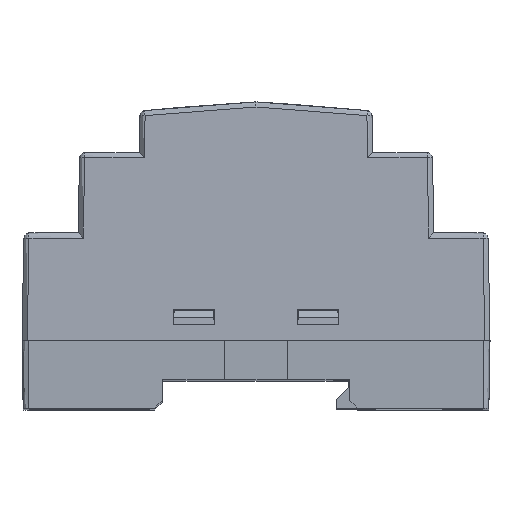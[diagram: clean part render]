
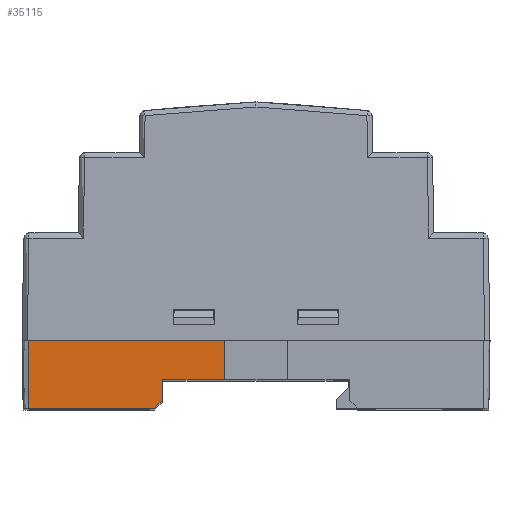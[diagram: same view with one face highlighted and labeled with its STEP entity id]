
A CAD part, top view. The second image highlights one B-rep face of the part: STEP entity #35115.
In plain terms, the highlighted planar face has unit normal (0, -0.018, 1).
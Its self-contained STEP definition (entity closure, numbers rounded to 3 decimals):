
#281 = EDGE_CURVE ( 'NONE', #34605, #40562, #3998, .T. ) ;
#2123 = DIRECTION ( 'NONE',  ( -0.009, -1., -0.017 ) ) ;
#2350 = FACE_OUTER_BOUND ( 'NONE', #42812, .T. ) ;
#3998 =( BOUNDED_CURVE ( )  B_SPLINE_CURVE ( 3, ( #6674, #45357, #6007, #20716 ),
 .UNSPECIFIED., .F., .T. ) 
 B_SPLINE_CURVE_WITH_KNOTS ( ( 4, 4 ),
 ( 0., 1.553 ),
 .UNSPECIFIED. ) 
 CURVE ( )  GEOMETRIC_REPRESENTATION_ITEM ( )  RATIONAL_B_SPLINE_CURVE ( ( 1., 0.809, 0.809, 1. ) ) 
 REPRESENTATION_ITEM ( '' )  );
#4540 = CARTESIAN_POINT ( 'NONE',  ( -19.52, -13.1, 105.821 ) ) ;
#6007 = CARTESIAN_POINT ( 'NONE',  ( -18.035, -12.493, 105.832 ) ) ;
#6616 = LINE ( 'NONE', #20892, #25298 ) ;
#6674 = CARTESIAN_POINT ( 'NONE',  ( -19.52, -13.1, 105.821 ) ) ;
#7754 = CARTESIAN_POINT ( 'NONE',  ( -17.798, 1.096, 106.069 ) ) ;
#8627 = CARTESIAN_POINT ( 'NONE',  ( -18.02, -11.626, 105.847 ) ) ;
#10854 = VERTEX_POINT ( 'NONE', #24430 ) ;
#11619 = DIRECTION ( 'NONE',  ( 0., -1., -0.017 ) ) ;
#14001 = EDGE_CURVE ( 'NONE', #33139, #34605, #38059, .T. ) ;
#14591 = ORIENTED_EDGE ( 'NONE', *, *, #44101, .F. ) ;
#15180 = CARTESIAN_POINT ( 'NONE',  ( -43.75, -13.1, 105.821 ) ) ;
#16810 = LINE ( 'NONE', #23278, #36074 ) ;
#17678 = DIRECTION ( 'NONE',  ( -0.017, -1., -0.017 ) ) ;
#19627 = LINE ( 'NONE', #33648, #23048 ) ;
#19732 = VERTEX_POINT ( 'NONE', #45451 ) ;
#20238 = DIRECTION ( 'NONE',  ( 1., 0., 0. ) ) ;
#20716 = CARTESIAN_POINT ( 'NONE',  ( -18.02, -11.626, 105.847 ) ) ;
#20892 = CARTESIAN_POINT ( 'NONE',  ( 45., 0., 106.05 ) ) ;
#21875 = EDGE_CURVE ( 'NONE', #10854, #25775, #26668, .T. ) ;
#22197 = ORIENTED_EDGE ( 'NONE', *, *, #21875, .T. ) ;
#23048 = VECTOR ( 'NONE', #2123, 1000. ) ;
#23278 = CARTESIAN_POINT ( 'NONE',  ( -43.75, 0., 106.05 ) ) ;
#23527 = PLANE ( 'NONE',  #25006 ) ;
#24365 = VECTOR ( 'NONE', #44745, 1000. ) ;
#24430 = CARTESIAN_POINT ( 'NONE',  ( -17.95, -7.6, 105.917 ) ) ;
#24805 = CARTESIAN_POINT ( 'NONE',  ( -43.75, 0., 106.05 ) ) ;
#24937 = ORIENTED_EDGE ( 'NONE', *, *, #281, .T. ) ;
#25006 = AXIS2_PLACEMENT_3D ( 'NONE', #26123, #36697, #11619 ) ;
#25298 = VECTOR ( 'NONE', #45295, 1000. ) ;
#25775 = VERTEX_POINT ( 'NONE', #29481 ) ;
#26123 = CARTESIAN_POINT ( 'NONE',  ( 45., 0., 106.05 ) ) ;
#26668 = LINE ( 'NONE', #44845, #28326 ) ;
#26795 = CARTESIAN_POINT ( 'NONE',  ( -45., -13.1, 105.821 ) ) ;
#28326 = VECTOR ( 'NONE', #20238, 1000. ) ;
#29477 = ORIENTED_EDGE ( 'NONE', *, *, #39572, .F. ) ;
#29481 = CARTESIAN_POINT ( 'NONE',  ( -6.05, -7.6, 105.917 ) ) ;
#29533 = EDGE_CURVE ( 'NONE', #37309, #19732, #6616, .T. ) ;
#30841 = DIRECTION ( 'NONE',  ( 0., -1., -0.017 ) ) ;
#31061 = ORIENTED_EDGE ( 'NONE', *, *, #36778, .T. ) ;
#32999 = ORIENTED_EDGE ( 'NONE', *, *, #14001, .T. ) ;
#33139 = VERTEX_POINT ( 'NONE', #15180 ) ;
#33648 = CARTESIAN_POINT ( 'NONE',  ( -5.98, 0.445, 106.058 ) ) ;
#34605 = VERTEX_POINT ( 'NONE', #4540 ) ;
#34921 = LINE ( 'NONE', #7754, #41511 ) ;
#35115 = ADVANCED_FACE ( 'NONE', ( #2350 ), #23527, .T. ) ;
#36074 = VECTOR ( 'NONE', #30841, 1000. ) ;
#36697 = DIRECTION ( 'NONE',  ( 0., -0.017, 1. ) ) ;
#36778 = EDGE_CURVE ( 'NONE', #37309, #33139, #16810, .T. ) ;
#37309 = VERTEX_POINT ( 'NONE', #24805 ) ;
#37725 = ORIENTED_EDGE ( 'NONE', *, *, #29533, .F. ) ;
#38059 = LINE ( 'NONE', #26795, #24365 ) ;
#39572 = EDGE_CURVE ( 'NONE', #19732, #25775, #19627, .T. ) ;
#40562 = VERTEX_POINT ( 'NONE', #8627 ) ;
#41511 = VECTOR ( 'NONE', #17678, 1000. ) ;
#42812 = EDGE_LOOP ( 'NONE', ( #32999, #24937, #14591, #22197, #29477, #37725, #31061 ) ) ;
#44101 = EDGE_CURVE ( 'NONE', #10854, #40562, #34921, .T. ) ;
#44745 = DIRECTION ( 'NONE',  ( 1., 0., 0. ) ) ;
#44845 = CARTESIAN_POINT ( 'NONE',  ( 45., -7.6, 105.917 ) ) ;
#45295 = DIRECTION ( 'NONE',  ( 1., 0., 0. ) ) ;
#45357 = CARTESIAN_POINT ( 'NONE',  ( -18.653, -13.1, 105.821 ) ) ;
#45451 = CARTESIAN_POINT ( 'NONE',  ( -5.984, 0., 106.05 ) ) ;
